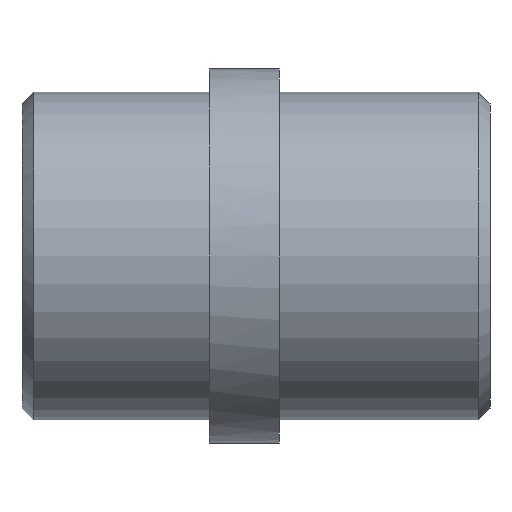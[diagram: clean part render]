
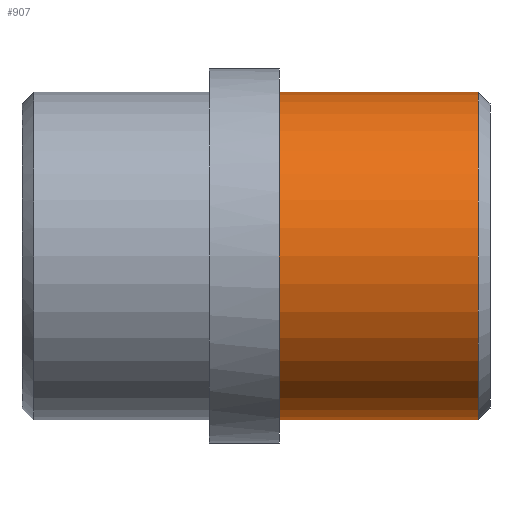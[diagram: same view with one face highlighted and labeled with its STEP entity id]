
A CAD part, front view. The second image highlights one B-rep face of the part: STEP entity #907.
In plain terms, the highlighted cylindrical face has radius 14 mm (diameter 28 mm), a partial arc.
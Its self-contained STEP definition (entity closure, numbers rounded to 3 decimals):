
#773=CARTESIAN_POINT('Vertex',(0.,0.,-14.)) ;
#778=CARTESIAN_POINT('Axis2P3D Location',(0.,0.,0.)) ;
#782=CARTESIAN_POINT('Vertex',(0.,-14.,0.)) ;
#785=CARTESIAN_POINT('Axis2P3D Location',(0.,0.,0.)) ;
#789=CARTESIAN_POINT('Vertex',(0.,0.,14.)) ;
#813=CARTESIAN_POINT('Vertex',(17.,0.,14.)) ;
#820=CARTESIAN_POINT('Vertex',(17.,0.,-14.)) ;
#849=CARTESIAN_POINT('Axis2P3D Location',(17.,0.,0.)) ;
#853=CARTESIAN_POINT('Vertex',(17.,-14.,0.)) ;
#856=CARTESIAN_POINT('Axis2P3D Location',(17.,0.,0.)) ;
#875=CARTESIAN_POINT('Line Origine',(18.,0.,14.)) ;
#880=CARTESIAN_POINT('Line Origine',(18.,0.,-14.)) ;
#894=CARTESIAN_POINT('Axis2P3D Location',(18.,0.,0.)) ;
#779=DIRECTION('Axis2P3D Direction',(1.,0.,-0.)) ;
#786=DIRECTION('Axis2P3D Direction',(1.,0.,-0.)) ;
#850=DIRECTION('Axis2P3D Direction',(-1.,0.,0.)) ;
#857=DIRECTION('Axis2P3D Direction',(-1.,0.,0.)) ;
#876=DIRECTION('Vector Direction',(-1.,0.,0.)) ;
#881=DIRECTION('Vector Direction',(-1.,0.,0.)) ;
#895=DIRECTION('Axis2P3D Direction',(-1.,-0.,-0.)) ;
#896=DIRECTION('Axis2P3D XDirection',(0.,0.,-1.)) ;
#780=AXIS2_PLACEMENT_3D('Circle Axis2P3D',#778,#779,$) ;
#787=AXIS2_PLACEMENT_3D('Circle Axis2P3D',#785,#786,$) ;
#851=AXIS2_PLACEMENT_3D('Circle Axis2P3D',#849,#850,$) ;
#858=AXIS2_PLACEMENT_3D('Circle Axis2P3D',#856,#857,$) ;
#897=AXIS2_PLACEMENT_3D('Cylinder Axis2P3D',#894,#895,#896) ;
#900=ORIENTED_EDGE('',*,*,#884,.T.) ;
#901=ORIENTED_EDGE('',*,*,#860,.F.) ;
#902=ORIENTED_EDGE('',*,*,#855,.F.) ;
#903=ORIENTED_EDGE('',*,*,#879,.T.) ;
#904=ORIENTED_EDGE('',*,*,#791,.T.) ;
#905=ORIENTED_EDGE('',*,*,#784,.T.) ;
#877=VECTOR('Line Direction',#876,1.) ;
#882=VECTOR('Line Direction',#881,1.) ;
#907=ADVANCED_FACE('355-20X40',(#906),#898,.T.) ;
#781=CIRCLE('generated circle',#780,14.) ;
#788=CIRCLE('generated circle',#787,14.) ;
#852=CIRCLE('generated circle',#851,14.) ;
#859=CIRCLE('generated circle',#858,14.) ;
#898=CYLINDRICAL_SURFACE('generated cylinder',#897,14.) ;
#784=EDGE_CURVE('',#783,#774,#781,.T.) ;
#791=EDGE_CURVE('',#790,#783,#788,.T.) ;
#855=EDGE_CURVE('',#814,#854,#852,.F.) ;
#860=EDGE_CURVE('',#854,#821,#859,.F.) ;
#879=EDGE_CURVE('',#814,#790,#878,.T.) ;
#884=EDGE_CURVE('',#774,#821,#883,.F.) ;
#899=EDGE_LOOP('',(#900,#901,#902,#903,#904,#905)) ;
#906=FACE_OUTER_BOUND('',#899,.T.) ;
#878=LINE('Line',#875,#877) ;
#883=LINE('Line',#880,#882) ;
#774=VERTEX_POINT('',#773) ;
#783=VERTEX_POINT('',#782) ;
#790=VERTEX_POINT('',#789) ;
#814=VERTEX_POINT('',#813) ;
#821=VERTEX_POINT('',#820) ;
#854=VERTEX_POINT('',#853) ;
